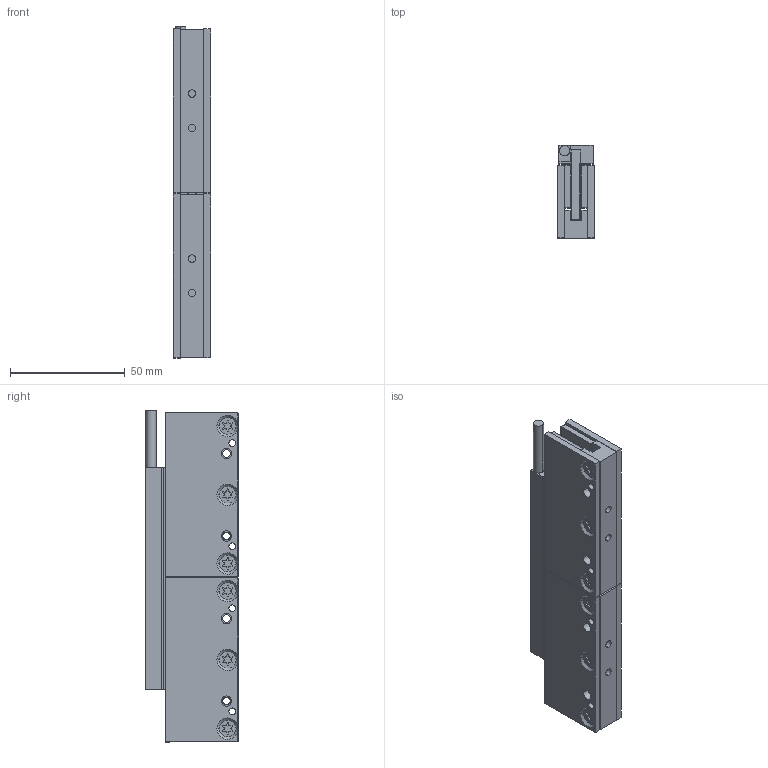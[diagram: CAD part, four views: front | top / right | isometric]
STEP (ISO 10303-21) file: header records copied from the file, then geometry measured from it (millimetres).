
FILE_DESCRIPTION (( 'STEP AP203' ), '1' );
FILE_NAME ('MY and CU assembly.STEP', '2020-10-25T13:07:28', ( '' ), ( '' ), 'SwSTEP 2.0', 'SolidWorks 2018', '' );
FILE_SCHEMA (( 'CONFIG_CONTROL_DESIGN' ));
Length unit declared in the file: millimetre
Products named in the file (10): Casting IL34-6; MY32-72 3D; MY44 screw; IL34-6 CU 3D; IL34-6 housing; CS32-72; MP34-72; IL34 magnet; MY and CU assembly; CP32-72
Assembly tree (33 placements, depth 4):
  MY and CU assembly
    MY32-72 3D  x2
      MP34-72
        CP32-72
        IL34 magnet  x18
      CS32-72
      MY44 screw
    IL34-6 CU 3D
      IL34-6 housing
      Casting IL34-6
Bounding box: 16.15 x 40.5 x 144.82 mm (x, y, z)
Volume: 95252.2 mm3; surface area: 82757.6 mm2
Topology: 92 solids, 92 shells, 2668 faces, 6165 edges, 3088 vertices
Faces by surface type: cylinder 1241, plane 749, sphere 578, cone 100
Entity records: 10638 total; most frequent: DIRECTION 1638, CARTESIAN_POINT 1556, ORIENTED_EDGE 1490, EDGE_CURVE 745, AXIS2_PLACEMENT_3D 578, VECTOR 482, LINE 482, VERTEX_POINT 464
